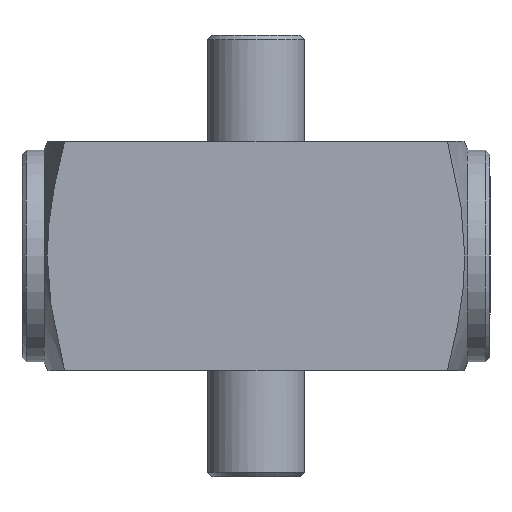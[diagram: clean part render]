
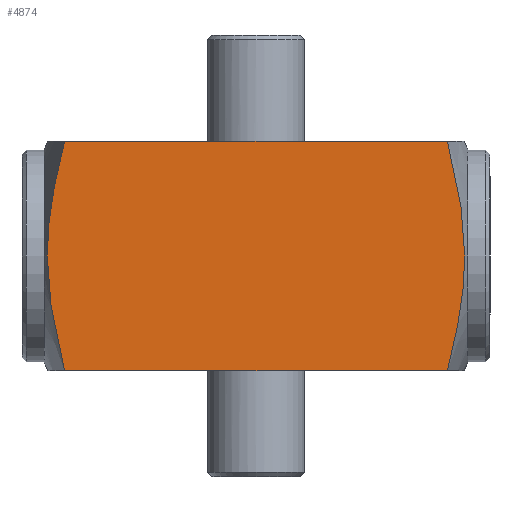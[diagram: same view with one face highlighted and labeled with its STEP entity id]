
A CAD part, front view. The second image highlights one B-rep face of the part: STEP entity #4874.
In plain terms, the highlighted planar face has unit normal (0, -1, 0).
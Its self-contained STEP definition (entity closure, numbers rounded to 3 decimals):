
#81=(
BOUNDED_CURVE()
B_SPLINE_CURVE(2,(#8390,#8391,#8392),.UNSPECIFIED.,.F.,.F.)
B_SPLINE_CURVE_WITH_KNOTS((3,3),(0.061,1.403),
 .UNSPECIFIED.)
CURVE()
GEOMETRIC_REPRESENTATION_ITEM()
RATIONAL_B_SPLINE_CURVE((1.02,1.231,1.231))
REPRESENTATION_ITEM('')
);
#82=(
BOUNDED_CURVE()
B_SPLINE_CURVE(2,(#8394,#8395,#8396),.UNSPECIFIED.,.F.,.F.)
B_SPLINE_CURVE_WITH_KNOTS((3,3),(1.403,2.745),
 .UNSPECIFIED.)
CURVE()
GEOMETRIC_REPRESENTATION_ITEM()
RATIONAL_B_SPLINE_CURVE((1.231,1.231,1.02))
REPRESENTATION_ITEM('')
);
#83=(
BOUNDED_CURVE()
B_SPLINE_CURVE(2,(#8398,#8399,#8400),.UNSPECIFIED.,.F.,.F.)
B_SPLINE_CURVE_WITH_KNOTS((3,3),(0.061,1.403),
 .UNSPECIFIED.)
CURVE()
GEOMETRIC_REPRESENTATION_ITEM()
RATIONAL_B_SPLINE_CURVE((1.02,1.231,1.231))
REPRESENTATION_ITEM('')
);
#84=(
BOUNDED_CURVE()
B_SPLINE_CURVE(2,(#8403,#8404,#8405),.UNSPECIFIED.,.F.,.F.)
B_SPLINE_CURVE_WITH_KNOTS((3,3),(1.403,2.745),
 .UNSPECIFIED.)
CURVE()
GEOMETRIC_REPRESENTATION_ITEM()
RATIONAL_B_SPLINE_CURVE((1.231,1.231,1.02))
REPRESENTATION_ITEM('')
);
#615=FACE_OUTER_BOUND('',#905,.T.);
#905=EDGE_LOOP('',(#4158,#4159,#4160,#4161,#4162,#4163));
#1288=LINE('',#7921,#1728);
#1348=LINE('',#8402,#1788);
#1728=VECTOR('',#5913,10.);
#1788=VECTOR('',#6249,10.);
#2115=VERTEX_POINT('',#7911);
#2117=VERTEX_POINT('',#7917);
#2217=VERTEX_POINT('',#8389);
#2218=VERTEX_POINT('',#8393);
#2219=VERTEX_POINT('',#8397);
#2220=VERTEX_POINT('',#8401);
#2709=EDGE_CURVE('',#2117,#2115,#1288,.T.);
#2869=EDGE_CURVE('',#2115,#2217,#81,.T.);
#2870=EDGE_CURVE('',#2218,#2117,#82,.T.);
#2871=EDGE_CURVE('',#2219,#2218,#83,.T.);
#2872=EDGE_CURVE('',#2219,#2220,#1348,.T.);
#2873=EDGE_CURVE('',#2217,#2220,#84,.T.);
#4158=ORIENTED_EDGE('',*,*,#2869,.F.);
#4159=ORIENTED_EDGE('',*,*,#2709,.F.);
#4160=ORIENTED_EDGE('',*,*,#2870,.F.);
#4161=ORIENTED_EDGE('',*,*,#2871,.F.);
#4162=ORIENTED_EDGE('',*,*,#2872,.T.);
#4163=ORIENTED_EDGE('',*,*,#2873,.F.);
#4355=PLANE('',#5203);
#4874=ADVANCED_FACE('',(#615),#4355,.T.);
#5203=AXIS2_PLACEMENT_3D('',#8388,#6247,#6248);
#5913=DIRECTION('',(1.,0.,0.));
#6247=DIRECTION('center_axis',(0.,-1.,0.));
#6248=DIRECTION('ref_axis',(0.,0.,-1.));
#6249=DIRECTION('',(1.,0.,0.));
#7911=CARTESIAN_POINT('',(-4.418,-27.733,13.));
#7917=CARTESIAN_POINT('',(-47.77,-27.733,13.));
#7921=CARTESIAN_POINT('',(-52.594,-27.733,13.));
#8388=CARTESIAN_POINT('Origin',(-52.594,-27.733,-13.));
#8389=CARTESIAN_POINT('',(-2.458,-27.733,0.));
#8390=CARTESIAN_POINT('Ctrl Pts',(-4.418,-27.733,13.));
#8391=CARTESIAN_POINT('Ctrl Pts',(-2.458,-27.733,5.385));
#8392=CARTESIAN_POINT('Ctrl Pts',(-2.458,-27.733,0.));
#8393=CARTESIAN_POINT('',(-49.73,-27.733,0.));
#8394=CARTESIAN_POINT('Ctrl Pts',(-49.73,-27.733,0.));
#8395=CARTESIAN_POINT('Ctrl Pts',(-49.73,-27.733,5.385));
#8396=CARTESIAN_POINT('Ctrl Pts',(-47.77,-27.733,13.));
#8397=CARTESIAN_POINT('',(-47.77,-27.733,-13.));
#8398=CARTESIAN_POINT('Ctrl Pts',(-47.77,-27.733,-13.));
#8399=CARTESIAN_POINT('Ctrl Pts',(-49.73,-27.733,-5.385));
#8400=CARTESIAN_POINT('Ctrl Pts',(-49.73,-27.733,0.));
#8401=CARTESIAN_POINT('',(-4.418,-27.733,-13.));
#8402=CARTESIAN_POINT('',(-52.594,-27.733,-13.));
#8403=CARTESIAN_POINT('Ctrl Pts',(-2.458,-27.733,0.));
#8404=CARTESIAN_POINT('Ctrl Pts',(-2.458,-27.733,-5.385));
#8405=CARTESIAN_POINT('Ctrl Pts',(-4.418,-27.733,-13.));
